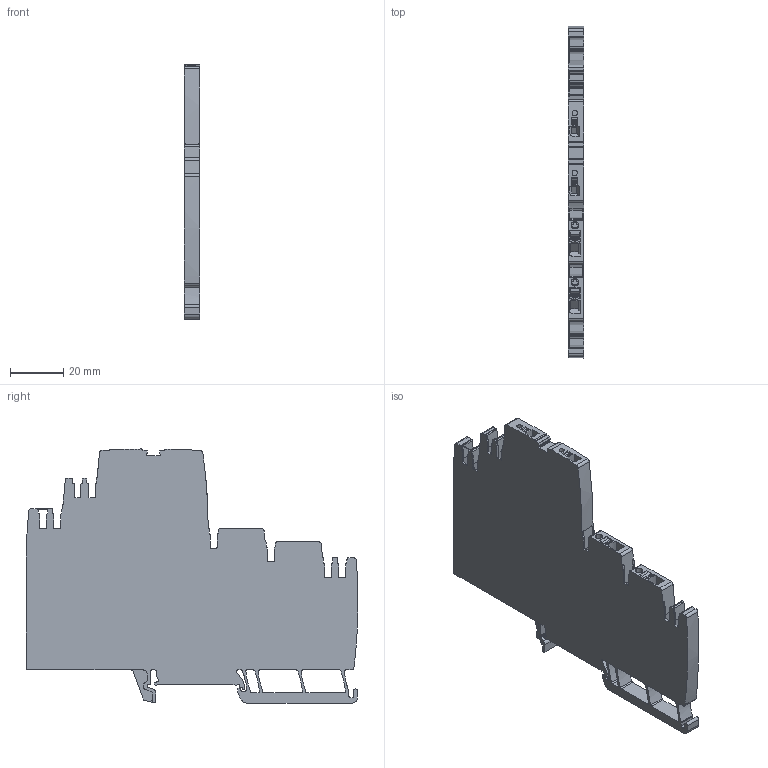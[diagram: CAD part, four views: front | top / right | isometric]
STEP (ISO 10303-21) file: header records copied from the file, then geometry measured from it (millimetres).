
FILE_DESCRIPTION(('CATIA V5R24 STEP','CAx-IF Rec.Pracs.--- Model Styling and Organization---1.2---2011-12-15'),'2;1');
FILE_NAME('\\SRVDE107\Germany\WMC\1_WMC_Input\Step_BU_PA\2495090000.stp','2016-12-15T10:20:39+00:00',('Weidmueller Interface'),('WI'),'CATIA Version 5-6 Release 2014 SP4','CATIA V5 STEP AP214','none');
FILE_SCHEMA(('AUTOMOTIVE_DESIGN { 1 0 10303 214 1 1 1 1 }'));
Length unit declared in the file: millimetre
Products named in the file (1): 2495090000
Bounding box: 6 x 125.07 x 95.73 mm (x, y, z)
Volume: 25450.3 mm3; surface area: 32643 mm2
Topology: 6 solids, 6 shells, 883 faces, 2726 edges, 1870 vertices
Faces by surface type: plane 502, cylinder 340, extrusion 41
Entity records: 31207 total; most frequent: CARTESIAN_POINT 7175, ORIENTED_EDGE 5452, DIRECTION 3750, EDGE_CURVE 2726, VERTEX_POINT 1870, VECTOR 1733, LINE 1692, AXIS2_PLACEMENT_3D 1295
